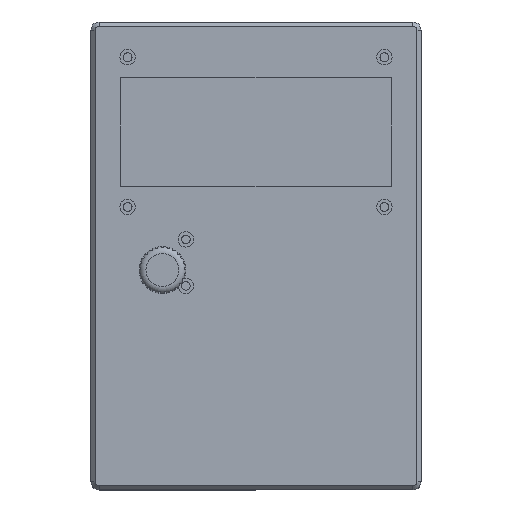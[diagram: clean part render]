
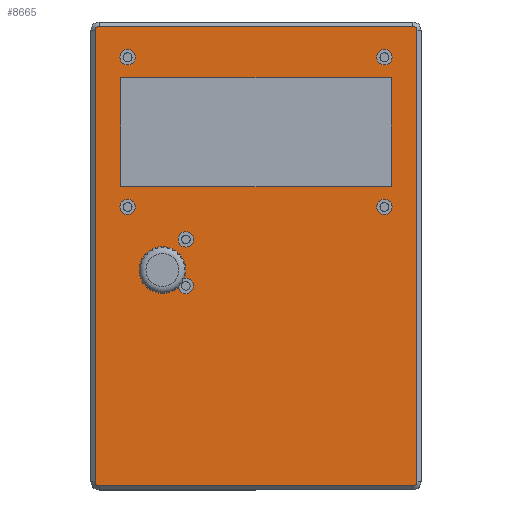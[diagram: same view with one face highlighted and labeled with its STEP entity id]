
A CAD part, top view. The second image highlights one B-rep face of the part: STEP entity #8665.
In plain terms, the highlighted planar face has unit normal (0, 0, 1).
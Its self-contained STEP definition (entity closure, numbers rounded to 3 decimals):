
#199=CIRCLE('',#9124,1.5);
#201=CIRCLE('',#9128,1.5);
#203=CIRCLE('',#9132,1.5);
#205=CIRCLE('',#9136,1.5);
#208=CIRCLE('',#9143,3.575);
#209=CIRCLE('',#9144,2.8);
#210=CIRCLE('',#9145,2.8);
#211=CIRCLE('',#9146,2.8);
#212=CIRCLE('',#9147,2.8);
#213=CIRCLE('',#9148,2.8);
#214=CIRCLE('',#9149,2.8);
#490=FACE_BOUND('',#1503,.T.);
#491=FACE_BOUND('',#1504,.T.);
#492=FACE_BOUND('',#1505,.T.);
#493=FACE_BOUND('',#1506,.T.);
#494=FACE_BOUND('',#1507,.T.);
#495=FACE_BOUND('',#1508,.T.);
#496=FACE_BOUND('',#1509,.T.);
#497=FACE_BOUND('',#1510,.T.);
#969=FACE_OUTER_BOUND('',#1502,.T.);
#1502=EDGE_LOOP('',(#6678,#6679,#6680,#6681,#6682,#6683,#6684,#6685));
#1503=EDGE_LOOP('',(#6686));
#1504=EDGE_LOOP('',(#6687,#6688,#6689,#6690));
#1505=EDGE_LOOP('',(#6691));
#1506=EDGE_LOOP('',(#6692));
#1507=EDGE_LOOP('',(#6693));
#1508=EDGE_LOOP('',(#6694));
#1509=EDGE_LOOP('',(#6695));
#1510=EDGE_LOOP('',(#6696));
#2140=LINE('',#14255,#2979);
#2144=LINE('',#14267,#2983);
#2148=LINE('',#14277,#2987);
#2151=LINE('',#14288,#2990);
#2156=LINE('',#14308,#2995);
#2157=LINE('',#14310,#2996);
#2158=LINE('',#14312,#2997);
#2159=LINE('',#14313,#2998);
#2979=VECTOR('',#10224,10.);
#2983=VECTOR('',#10236,10.);
#2987=VECTOR('',#10248,10.);
#2990=VECTOR('',#10259,10.);
#2995=VECTOR('',#10284,10.);
#2996=VECTOR('',#10285,10.);
#2997=VECTOR('',#10286,10.);
#2998=VECTOR('',#10287,10.);
#3881=VERTEX_POINT('',#14252);
#3882=VERTEX_POINT('',#14254);
#3884=VERTEX_POINT('',#14260);
#3886=VERTEX_POINT('',#14265);
#3887=VERTEX_POINT('',#14271);
#3888=VERTEX_POINT('',#14275);
#3890=VERTEX_POINT('',#14281);
#3892=VERTEX_POINT('',#14286);
#3895=VERTEX_POINT('',#14304);
#3896=VERTEX_POINT('',#14306);
#3897=VERTEX_POINT('',#14307);
#3898=VERTEX_POINT('',#14309);
#3899=VERTEX_POINT('',#14311);
#3900=VERTEX_POINT('',#14314);
#3901=VERTEX_POINT('',#14316);
#3902=VERTEX_POINT('',#14318);
#3903=VERTEX_POINT('',#14320);
#3904=VERTEX_POINT('',#14322);
#3905=VERTEX_POINT('',#14324);
#4887=EDGE_CURVE('',#3881,#3882,#2140,.T.);
#4891=EDGE_CURVE('',#3884,#3881,#199,.T.);
#4893=EDGE_CURVE('',#3886,#3884,#2144,.T.);
#4897=EDGE_CURVE('',#3887,#3886,#201,.T.);
#4899=EDGE_CURVE('',#3888,#3887,#2148,.T.);
#4902=EDGE_CURVE('',#3890,#3888,#203,.T.);
#4904=EDGE_CURVE('',#3892,#3890,#2151,.T.);
#4907=EDGE_CURVE('',#3882,#3892,#205,.T.);
#4913=EDGE_CURVE('',#3895,#3895,#208,.T.);
#4914=EDGE_CURVE('',#3896,#3897,#2156,.T.);
#4915=EDGE_CURVE('',#3897,#3898,#2157,.T.);
#4916=EDGE_CURVE('',#3898,#3899,#2158,.T.);
#4917=EDGE_CURVE('',#3899,#3896,#2159,.T.);
#4918=EDGE_CURVE('',#3900,#3900,#209,.T.);
#4919=EDGE_CURVE('',#3901,#3901,#210,.T.);
#4920=EDGE_CURVE('',#3902,#3902,#211,.T.);
#4921=EDGE_CURVE('',#3903,#3903,#212,.T.);
#4922=EDGE_CURVE('',#3904,#3904,#213,.T.);
#4923=EDGE_CURVE('',#3905,#3905,#214,.T.);
#6678=ORIENTED_EDGE('',*,*,#4887,.F.);
#6679=ORIENTED_EDGE('',*,*,#4891,.F.);
#6680=ORIENTED_EDGE('',*,*,#4893,.F.);
#6681=ORIENTED_EDGE('',*,*,#4897,.F.);
#6682=ORIENTED_EDGE('',*,*,#4899,.F.);
#6683=ORIENTED_EDGE('',*,*,#4902,.F.);
#6684=ORIENTED_EDGE('',*,*,#4904,.F.);
#6685=ORIENTED_EDGE('',*,*,#4907,.F.);
#6686=ORIENTED_EDGE('',*,*,#4913,.T.);
#6687=ORIENTED_EDGE('',*,*,#4914,.T.);
#6688=ORIENTED_EDGE('',*,*,#4915,.T.);
#6689=ORIENTED_EDGE('',*,*,#4916,.T.);
#6690=ORIENTED_EDGE('',*,*,#4917,.T.);
#6691=ORIENTED_EDGE('',*,*,#4918,.T.);
#6692=ORIENTED_EDGE('',*,*,#4919,.T.);
#6693=ORIENTED_EDGE('',*,*,#4920,.T.);
#6694=ORIENTED_EDGE('',*,*,#4921,.T.);
#6695=ORIENTED_EDGE('',*,*,#4922,.T.);
#6696=ORIENTED_EDGE('',*,*,#4923,.T.);
#8276=PLANE('',#9142);
#8665=ADVANCED_FACE('',(#969,#490,#491,#492,#493,#494,#495,#496,#497),#8276,
 .T.);
#9124=AXIS2_PLACEMENT_3D('',#14262,#10231,#10232);
#9128=AXIS2_PLACEMENT_3D('',#14273,#10243,#10244);
#9132=AXIS2_PLACEMENT_3D('',#14283,#10254,#10255);
#9136=AXIS2_PLACEMENT_3D('',#14292,#10265,#10266);
#9142=AXIS2_PLACEMENT_3D('',#14303,#10280,#10281);
#9143=AXIS2_PLACEMENT_3D('',#14305,#10282,#10283);
#9144=AXIS2_PLACEMENT_3D('',#14315,#10288,#10289);
#9145=AXIS2_PLACEMENT_3D('',#14317,#10290,#10291);
#9146=AXIS2_PLACEMENT_3D('',#14319,#10292,#10293);
#9147=AXIS2_PLACEMENT_3D('',#14321,#10294,#10295);
#9148=AXIS2_PLACEMENT_3D('',#14323,#10296,#10297);
#9149=AXIS2_PLACEMENT_3D('',#14325,#10298,#10299);
#10224=DIRECTION('',(1.,0.,0.));
#10231=DIRECTION('center_axis',(0.,0.,-1.));
#10232=DIRECTION('ref_axis',(-0.707,0.707,0.));
#10236=DIRECTION('',(0.,1.,0.));
#10243=DIRECTION('center_axis',(0.,0.,-1.));
#10244=DIRECTION('ref_axis',(-0.707,-0.707,0.));
#10248=DIRECTION('',(-1.,0.,0.));
#10254=DIRECTION('center_axis',(0.,0.,-1.));
#10255=DIRECTION('ref_axis',(0.707,-0.707,0.));
#10259=DIRECTION('',(0.,-1.,0.));
#10265=DIRECTION('center_axis',(0.,0.,-1.));
#10266=DIRECTION('ref_axis',(0.707,0.707,0.));
#10280=DIRECTION('center_axis',(0.,0.,1.));
#10281=DIRECTION('ref_axis',(1.,0.,0.));
#10282=DIRECTION('center_axis',(0.,0.,-1.));
#10283=DIRECTION('ref_axis',(1.,0.,0.));
#10284=DIRECTION('',(-1.,0.,0.));
#10285=DIRECTION('',(0.,1.,0.));
#10286=DIRECTION('',(1.,0.,0.));
#10287=DIRECTION('',(0.,-1.,0.));
#10288=DIRECTION('center_axis',(0.,0.,-1.));
#10289=DIRECTION('ref_axis',(1.,0.,0.));
#10290=DIRECTION('center_axis',(0.,0.,-1.));
#10291=DIRECTION('ref_axis',(1.,0.,0.));
#10292=DIRECTION('center_axis',(0.,0.,-1.));
#10293=DIRECTION('ref_axis',(1.,0.,0.));
#10294=DIRECTION('center_axis',(0.,0.,-1.));
#10295=DIRECTION('ref_axis',(1.,0.,0.));
#10296=DIRECTION('center_axis',(0.,0.,-1.));
#10297=DIRECTION('ref_axis',(1.,0.,0.));
#10298=DIRECTION('center_axis',(0.,0.,-1.));
#10299=DIRECTION('ref_axis',(1.,0.,0.));
#14252=CARTESIAN_POINT('',(3.,168.5,5.));
#14254=CARTESIAN_POINT('',(117.,168.5,5.));
#14255=CARTESIAN_POINT('',(90.,168.5,5.));
#14260=CARTESIAN_POINT('',(1.5,167.,5.));
#14262=CARTESIAN_POINT('Origin',(3.,167.,5.));
#14265=CARTESIAN_POINT('',(1.5,3.,5.));
#14267=CARTESIAN_POINT('',(1.5,127.5,5.));
#14271=CARTESIAN_POINT('',(3.,1.5,5.));
#14273=CARTESIAN_POINT('Origin',(3.,3.,5.));
#14275=CARTESIAN_POINT('',(117.,1.5,5.));
#14277=CARTESIAN_POINT('',(30.,1.5,5.));
#14281=CARTESIAN_POINT('',(118.5,3.,5.));
#14283=CARTESIAN_POINT('Origin',(117.,3.,5.));
#14286=CARTESIAN_POINT('',(118.5,167.,5.));
#14288=CARTESIAN_POINT('',(118.5,42.5,5.));
#14292=CARTESIAN_POINT('Origin',(117.,167.,5.));
#14303=CARTESIAN_POINT('Origin',(60.,85.,5.));
#14304=CARTESIAN_POINT('',(22.425,79.85,5.));
#14305=CARTESIAN_POINT('Origin',(26.,79.85,5.));
#14306=CARTESIAN_POINT('',(109.15,110.2,5.));
#14307=CARTESIAN_POINT('',(10.85,110.2,5.));
#14308=CARTESIAN_POINT('',(109.15,110.2,5.));
#14309=CARTESIAN_POINT('',(10.85,149.8,5.));
#14310=CARTESIAN_POINT('',(10.85,110.2,5.));
#14311=CARTESIAN_POINT('',(109.15,149.8,5.));
#14312=CARTESIAN_POINT('',(10.85,149.8,5.));
#14313=CARTESIAN_POINT('',(109.15,149.8,5.));
#14314=CARTESIAN_POINT('',(31.7,74.1,5.));
#14315=CARTESIAN_POINT('Origin',(34.5,74.1,5.));
#14316=CARTESIAN_POINT('',(10.55,102.8,5.));
#14317=CARTESIAN_POINT('Origin',(13.35,102.8,5.));
#14318=CARTESIAN_POINT('',(10.55,157.2,5.));
#14319=CARTESIAN_POINT('Origin',(13.35,157.2,5.));
#14320=CARTESIAN_POINT('',(31.7,91.,5.));
#14321=CARTESIAN_POINT('Origin',(34.5,91.,5.));
#14322=CARTESIAN_POINT('',(103.85,102.8,5.));
#14323=CARTESIAN_POINT('Origin',(106.65,102.8,5.));
#14324=CARTESIAN_POINT('',(103.85,157.2,5.));
#14325=CARTESIAN_POINT('Origin',(106.65,157.2,5.));
